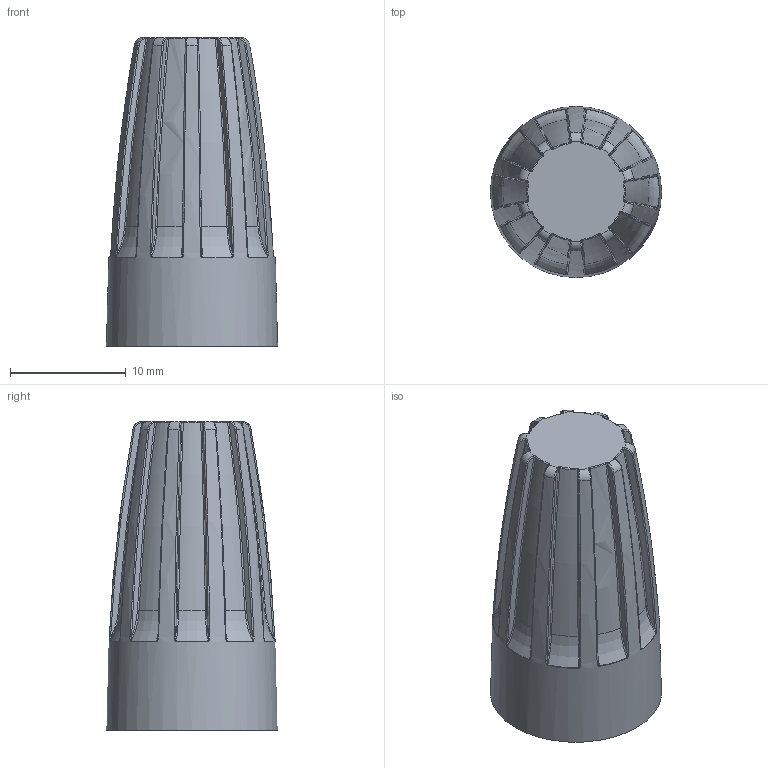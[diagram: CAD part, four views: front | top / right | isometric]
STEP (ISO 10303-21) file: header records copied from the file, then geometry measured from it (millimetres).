
FILE_DESCRIPTION(/* description */ ('Unknown'),/* implementation_level */ '2;1');
FILE_NAME(/* name */ 'Ideal 76B-6',/* time_stamp */ '2021-10-08T08:44:36+02:00',/* author */ ('Unknown'),/* organization */ ('Unknown'),/* preprocessor_version */ 'ST-DEVELOPER v16.7',/* originating_system */ 'Solid Edge',/* authorisation */ 'Unknown');
FILE_SCHEMA (('AUTOMOTIVE_DESIGN {1 0 10303 214 3 1 1}'));
Length unit declared in the file: millimetre
Products named in the file (1): Ideal 76B-6
Bounding box: 14.8 x 14.8 x 26.7 mm (x, y, z)
Volume: 1974.4 mm3; surface area: 2081 mm2
Topology: 1 solids, 1 shells, 218 faces, 502 edges, 288 vertices
Faces by surface type: bspline 140, torus 52, plane 24, cone 2
Entity records: 7434 total; most frequent: CARTESIAN_POINT 3501, ORIENTED_EDGE 992, DIRECTION 590, EDGE_CURVE 496, AXIS2_PLACEMENT_3D 295, VERTEX_POINT 286, B_SPLINE_CURVE_WITH_KNOTS 280, EDGE_LOOP 224
